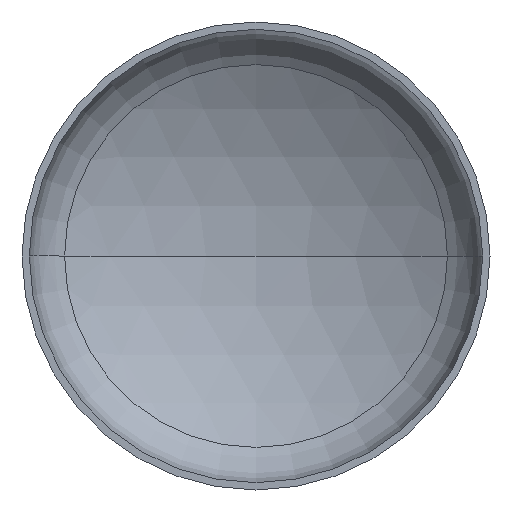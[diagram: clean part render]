
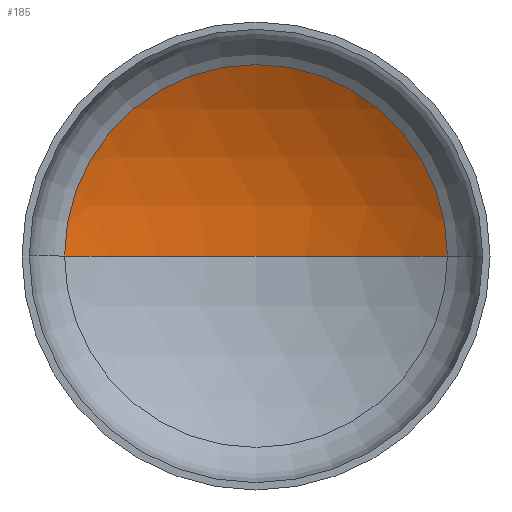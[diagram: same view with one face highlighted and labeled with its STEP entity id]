
A CAD part, front view. The second image highlights one B-rep face of the part: STEP entity #185.
In plain terms, the highlighted spherical face has radius 2080 mm.
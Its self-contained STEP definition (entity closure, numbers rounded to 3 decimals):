
#8 = DIRECTION ( 'NONE',  ( -1., 0., 0. ) ) ;
#13 = ORIENTED_EDGE ( 'NONE', *, *, #346, .T. ) ;
#17 = EDGE_LOOP ( 'NONE', ( #28, #13, #113 ) ) ;
#18 = AXIS2_PLACEMENT_3D ( 'NONE', #111, #157, #158 ) ;
#22 = DIRECTION ( 'NONE',  ( 0., 0., -1. ) ) ;
#25 = VERTEX_POINT ( 'NONE', #294 ) ;
#28 = ORIENTED_EDGE ( 'NONE', *, *, #353, .F. ) ;
#30 = AXIS2_PLACEMENT_3D ( 'NONE', #183, #327, #187 ) ;
#37 = AXIS2_PLACEMENT_3D ( 'NONE', #170, #175, #285 ) ;
#81 = AXIS2_PLACEMENT_3D ( 'NONE', #387, #22, #8 ) ;
#106 = VERTEX_POINT ( 'NONE', #255 ) ;
#111 = CARTESIAN_POINT ( 'NONE',  ( 0., 473.759, 0. ) ) ;
#113 = ORIENTED_EDGE ( 'NONE', *, *, #365, .T. ) ;
#157 = DIRECTION ( 'NONE',  ( 0., -1., 0. ) ) ;
#158 = DIRECTION ( 'NONE',  ( 1., 0., 0. ) ) ;
#170 = CARTESIAN_POINT ( 'NONE',  ( 0., -1313.786, 0. ) ) ;
#175 = DIRECTION ( 'NONE',  ( 0., 0., -1. ) ) ;
#179 = VERTEX_POINT ( 'NONE', #204 ) ;
#183 = CARTESIAN_POINT ( 'NONE',  ( 0., -1313.786, 0. ) ) ;
#185 = ADVANCED_FACE ( 'NONE', ( #325 ), #208, .F. ) ;
#187 = DIRECTION ( 'NONE',  ( 1., 0., 0. ) ) ;
#204 = CARTESIAN_POINT ( 'NONE',  ( -1063.524, 473.759, 0. ) ) ;
#208 = SPHERICAL_SURFACE ( 'NONE', #81, 2080. ) ;
#246 = CIRCLE ( 'NONE', #18, 1063.524 ) ;
#255 = CARTESIAN_POINT ( 'NONE',  ( 1063.524, 473.759, 0. ) ) ;
#285 = DIRECTION ( 'NONE',  ( -1., 0., 0. ) ) ;
#294 = CARTESIAN_POINT ( 'NONE',  ( 0., 766.214, 0. ) ) ;
#325 = FACE_OUTER_BOUND ( 'NONE', #17, .T. ) ;
#327 = DIRECTION ( 'NONE',  ( 0., 0., 1. ) ) ;
#346 = EDGE_CURVE ( 'NONE', #25, #106, #377, .T. ) ;
#353 = EDGE_CURVE ( 'NONE', #25, #179, #411, .T. ) ;
#365 = EDGE_CURVE ( 'NONE', #106, #179, #246, .T. ) ;
#377 = CIRCLE ( 'NONE', #37, 2080. ) ;
#387 = CARTESIAN_POINT ( 'NONE',  ( 0., -1313.786, 0. ) ) ;
#411 = CIRCLE ( 'NONE', #30, 2080. ) ;
